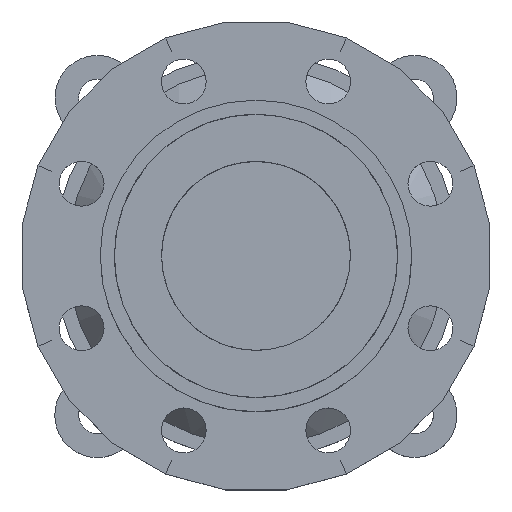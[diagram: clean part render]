
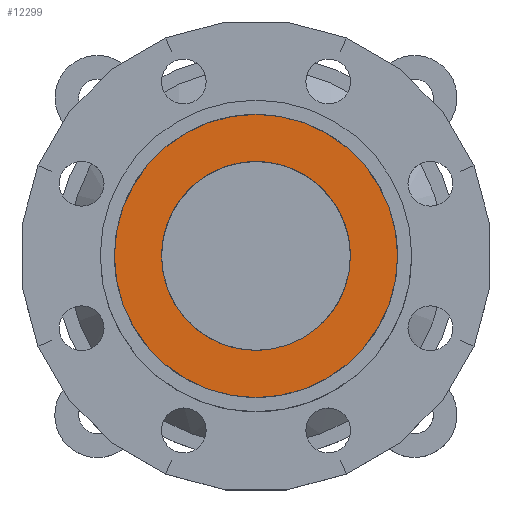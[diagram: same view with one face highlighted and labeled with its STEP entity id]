
A CAD part, top view. The second image highlights one B-rep face of the part: STEP entity #12299.
In plain terms, the highlighted planar face has unit normal (0, 0, 1).
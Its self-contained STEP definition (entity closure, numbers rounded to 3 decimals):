
#12194=AXIS2_PLACEMENT_3D('Circle Axis2P3D',#12192,#12193,$) ;
#12219=AXIS2_PLACEMENT_3D('Circle Axis2P3D',#12217,#12218,$) ;
#12233=AXIS2_PLACEMENT_3D('Plane Axis2P3D',#12230,#12231,#12232) ;
#12189=CARTESIAN_POINT('Vertex',(-60.,0.,155.)) ;
#12192=CARTESIAN_POINT('Axis2P3D Location',(0.,0.,155.)) ;
#12196=CARTESIAN_POINT('Vertex',(60.,0.,155.)) ;
#12217=CARTESIAN_POINT('Axis2P3D Location',(0.,0.,155.)) ;
#12230=CARTESIAN_POINT('Axis2P3D Location',(-50.,0.,155.)) ;
#12240=CARTESIAN_POINT('Control Point',(40.,0.,155.)) ;
#12241=CARTESIAN_POINT('Control Point',(40.,-3.718,155.)) ;
#12242=CARTESIAN_POINT('Control Point',(39.568,-7.436,155.)) ;
#12243=CARTESIAN_POINT('Control Point',(38.704,-11.087,155.)) ;
#12244=CARTESIAN_POINT('Control Point',(36.143,-18.122,155.)) ;
#12245=CARTESIAN_POINT('Control Point',(32.038,-24.382,155.)) ;
#12246=CARTESIAN_POINT('Control Point',(29.629,-27.259,155.)) ;
#12247=CARTESIAN_POINT('Control Point',(24.187,-32.399,155.)) ;
#12248=CARTESIAN_POINT('Control Point',(17.712,-36.155,155.)) ;
#12249=CARTESIAN_POINT('Control Point',(14.269,-37.647,155.)) ;
#12250=CARTESIAN_POINT('Control Point',(7.1,-39.804,155.)) ;
#12251=CARTESIAN_POINT('Control Point',(-0.372,-40.259,155.)) ;
#12252=CARTESIAN_POINT('Control Point',(-4.118,-40.049,155.)) ;
#12253=CARTESIAN_POINT('Control Point',(-11.493,-38.764,155.)) ;
#12254=CARTESIAN_POINT('Control Point',(-18.377,-35.822,155.)) ;
#12255=CARTESIAN_POINT('Control Point',(-21.632,-33.956,155.)) ;
#12256=CARTESIAN_POINT('Control Point',(-27.648,-29.501,155.)) ;
#12257=CARTESIAN_POINT('Control Point',(-32.483,-23.786,155.)) ;
#12258=CARTESIAN_POINT('Control Point',(-34.557,-20.658,155.)) ;
#12259=CARTESIAN_POINT('Control Point',(-37.532,-14.782,155.)) ;
#12260=CARTESIAN_POINT('Control Point',(-39.252,-8.444,155.)) ;
#12261=CARTESIAN_POINT('Control Point',(-39.751,-5.649,155.)) ;
#12262=CARTESIAN_POINT('Control Point',(-40.,-2.824,155.)) ;
#12263=CARTESIAN_POINT('Control Point',(-40.,0.,155.)) ;
#12264=CARTESIAN_POINT('Vertex',(40.,0.,155.)) ;
#12266=CARTESIAN_POINT('Vertex',(-40.,0.,155.)) ;
#12270=CARTESIAN_POINT('Control Point',(-40.,0.,155.)) ;
#12271=CARTESIAN_POINT('Control Point',(-40.,3.718,155.)) ;
#12272=CARTESIAN_POINT('Control Point',(-39.568,7.436,155.)) ;
#12273=CARTESIAN_POINT('Control Point',(-38.704,11.087,155.)) ;
#12274=CARTESIAN_POINT('Control Point',(-36.143,18.122,155.)) ;
#12275=CARTESIAN_POINT('Control Point',(-32.038,24.382,155.)) ;
#12276=CARTESIAN_POINT('Control Point',(-29.629,27.259,155.)) ;
#12277=CARTESIAN_POINT('Control Point',(-24.187,32.399,155.)) ;
#12278=CARTESIAN_POINT('Control Point',(-17.712,36.155,155.)) ;
#12279=CARTESIAN_POINT('Control Point',(-14.269,37.647,155.)) ;
#12280=CARTESIAN_POINT('Control Point',(-7.1,39.804,155.)) ;
#12281=CARTESIAN_POINT('Control Point',(0.372,40.259,155.)) ;
#12282=CARTESIAN_POINT('Control Point',(4.118,40.049,155.)) ;
#12283=CARTESIAN_POINT('Control Point',(11.493,38.764,155.)) ;
#12284=CARTESIAN_POINT('Control Point',(18.377,35.822,155.)) ;
#12285=CARTESIAN_POINT('Control Point',(21.632,33.956,155.)) ;
#12286=CARTESIAN_POINT('Control Point',(27.648,29.501,155.)) ;
#12287=CARTESIAN_POINT('Control Point',(32.483,23.786,155.)) ;
#12288=CARTESIAN_POINT('Control Point',(34.557,20.658,155.)) ;
#12289=CARTESIAN_POINT('Control Point',(37.532,14.782,155.)) ;
#12290=CARTESIAN_POINT('Control Point',(39.252,8.444,155.)) ;
#12291=CARTESIAN_POINT('Control Point',(39.751,5.649,155.)) ;
#12292=CARTESIAN_POINT('Control Point',(40.,2.824,155.)) ;
#12293=CARTESIAN_POINT('Control Point',(40.,0.,155.)) ;
#12193=DIRECTION('Axis2P3D Direction',(-0.,0.,-1.)) ;
#12218=DIRECTION('Axis2P3D Direction',(-0.,0.,-1.)) ;
#12231=DIRECTION('Axis2P3D Direction',(0.,0.,1.)) ;
#12232=DIRECTION('Axis2P3D XDirection',(-1.,0.,0.)) ;
#12236=ORIENTED_EDGE('',*,*,#12221,.T.) ;
#12237=ORIENTED_EDGE('',*,*,#12198,.T.) ;
#12296=ORIENTED_EDGE('',*,*,#12268,.T.) ;
#12297=ORIENTED_EDGE('',*,*,#12294,.T.) ;
#12298=FACE_BOUND('',#12295,.T.) ;
#12299=ADVANCED_FACE('3',(#12238,#12298),#12234,.T.) ;
#12239=B_SPLINE_CURVE_WITH_KNOTS('',5,(#12240,#12241,#12242,#12243,#12244,#12245,#12246,#12247,#12248,#12249,#12250,#12251,#12252,#12253,#12254,#12255,#12256,#12257,#12258,#12259,#12260,#12261,#12262,#12263),.UNSPECIFIED.,.F.,.U.,(6,3,3,3,3,3,3,6),(0.,26.29,52.581,78.871,105.162,131.452,157.743,177.714),.UNSPECIFIED.) ;
#12269=B_SPLINE_CURVE_WITH_KNOTS('',5,(#12270,#12271,#12272,#12273,#12274,#12275,#12276,#12277,#12278,#12279,#12280,#12281,#12282,#12283,#12284,#12285,#12286,#12287,#12288,#12289,#12290,#12291,#12292,#12293),.UNSPECIFIED.,.F.,.U.,(6,3,3,3,3,3,3,6),(0.,26.29,52.581,78.871,105.162,131.452,157.743,177.714),.UNSPECIFIED.) ;
#12195=CIRCLE('generated circle',#12194,60.) ;
#12220=CIRCLE('generated circle',#12219,60.) ;
#12198=EDGE_CURVE('',#12197,#12190,#12195,.F.) ;
#12221=EDGE_CURVE('',#12190,#12197,#12220,.F.) ;
#12268=EDGE_CURVE('',#12265,#12267,#12239,.T.) ;
#12294=EDGE_CURVE('',#12267,#12265,#12269,.T.) ;
#12235=EDGE_LOOP('',(#12236,#12237)) ;
#12295=EDGE_LOOP('',(#12296,#12297)) ;
#12238=FACE_OUTER_BOUND('',#12235,.T.) ;
#12234=PLANE('',#12233) ;
#12190=VERTEX_POINT('',#12189) ;
#12197=VERTEX_POINT('',#12196) ;
#12265=VERTEX_POINT('',#12264) ;
#12267=VERTEX_POINT('',#12266) ;
